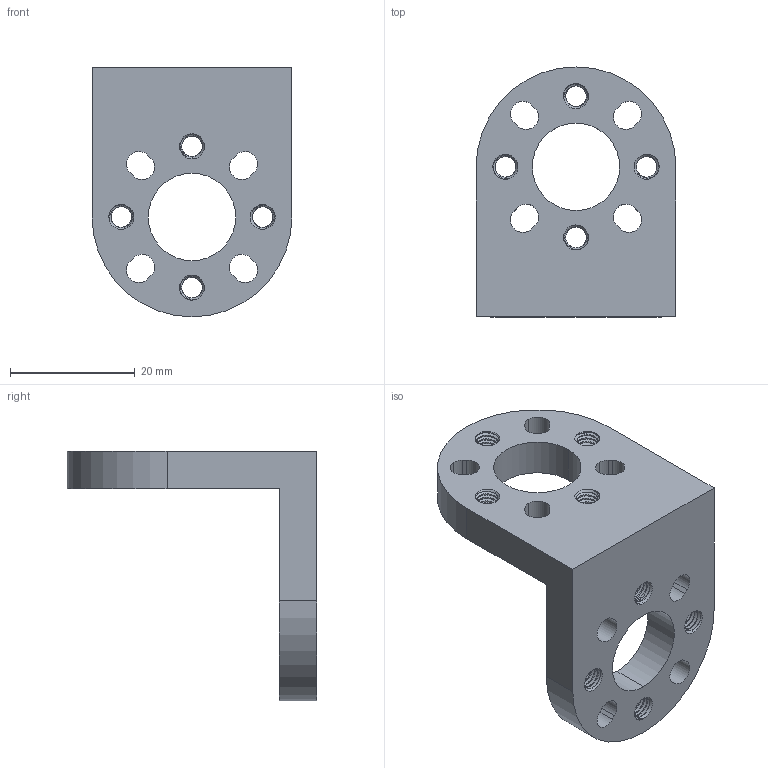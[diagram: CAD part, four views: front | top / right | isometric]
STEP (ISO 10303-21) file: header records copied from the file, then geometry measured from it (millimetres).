
FILE_DESCRIPTION (( 'STEP AP203' ), '1' );
FILE_NAME ('1202-0001-0001.STEP', '2018-01-08T23:04:56', ( '' ), ( '' ), 'SwSTEP 2.0', 'SolidWorks 2016', '' );
FILE_SCHEMA (( 'CONFIG_CONTROL_DESIGN' ));
Products named in the file (1): 1202-0001-0001
Bounding box: 32 x 40 x 40 mm (x, y, z)
Volume: 9813 mm3; surface area: 6399.3 mm2
Topology: 1 solids, 1 shells, 394 faces, 1148 edges, 756 vertices
Faces by surface type: cylinder 307, cone 49, plane 22, bspline 16
Entity records: 34697 total; most frequent: CARTESIAN_POINT 25769, ORIENTED_EDGE 2296, DIRECTION 1436, EDGE_CURVE 1148, VERTEX_POINT 756, AXIS2_PLACEMENT_3D 525, EDGE_LOOP 430, FACE_OUTER_BOUND 394
